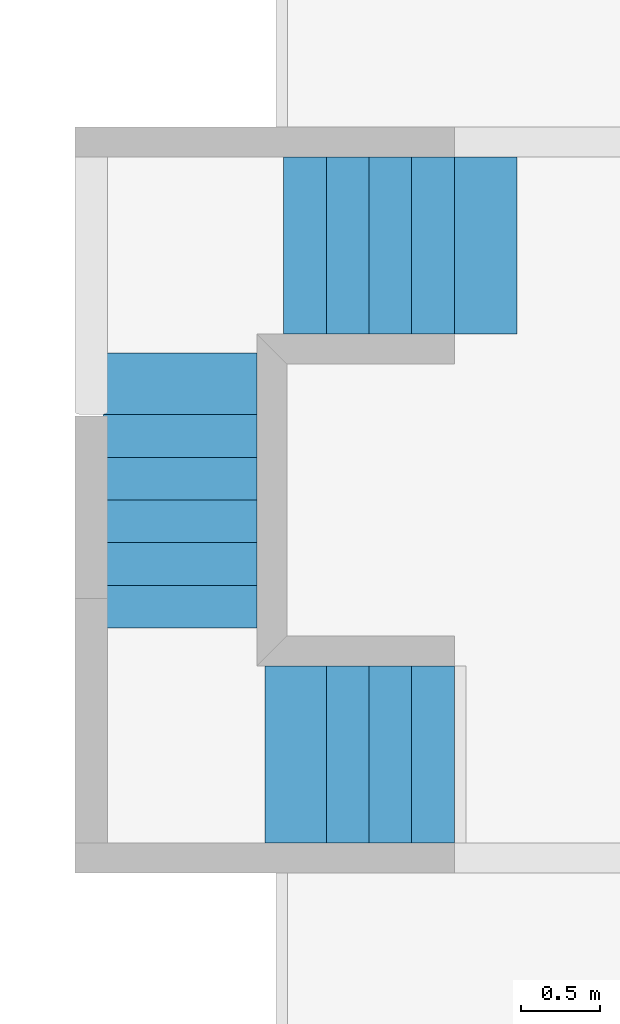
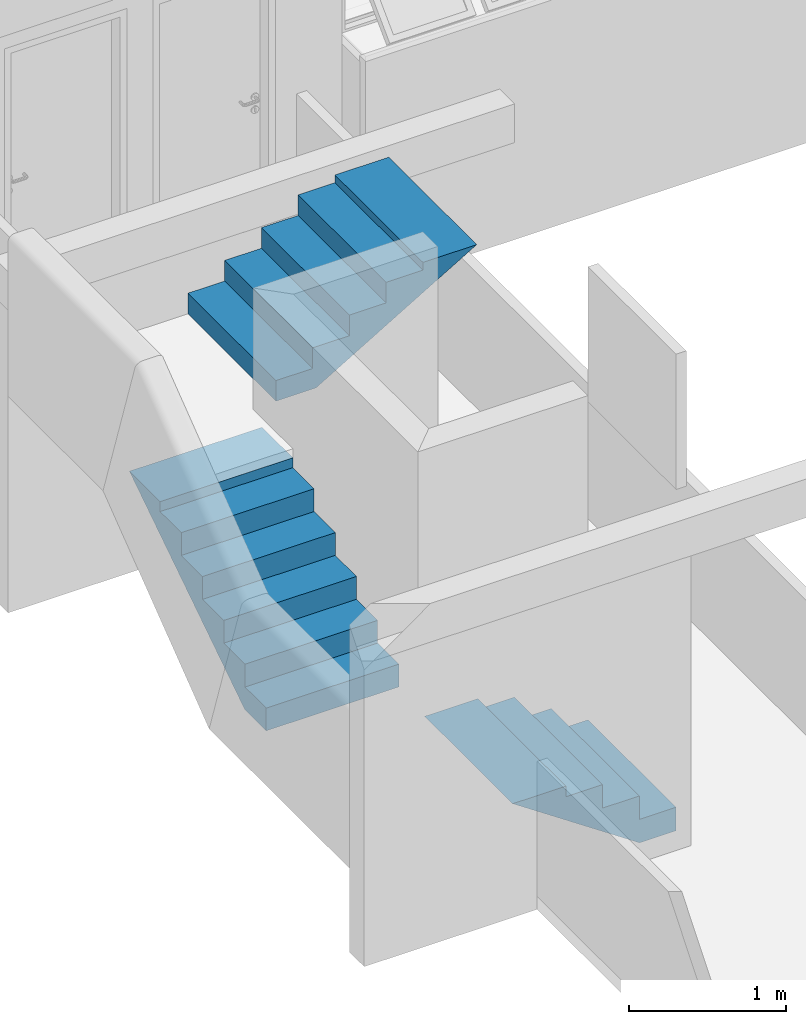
# One storey, part 38 of 38: 3 members, 3 elements without a shape of their own.
"""IFC2X3 building model written with IfcOpenShell, lengths in millimetres."""

from ifc_helpers import new_model, entity, si_unit, converted_unit, derived_unit, money_unit, direction, frame, origin_with_axes, place, context, subcontext, project, spatial, faceted_brep, material, type_object, element, aggregate, save


model = new_model("IFC2X3")

# Units and contexts
model_context = context("Model", 3, precision=0.01, world=origin_with_axes(), true_north=direction((0.0, 1.0)))
body_context = subcontext(model_context, "Body", "Model", "MODEL_VIEW")
ifc_project = project(units=[si_unit("LENGTHUNIT", "METRE", prefix="MILLI"), si_unit("AREAUNIT", "SQUARE_METRE"), si_unit("VOLUMEUNIT", "CUBIC_METRE"), converted_unit("PLANEANGLEUNIT", "DEGREE", entity("IfcPlaneAngleMeasure", 0.0174532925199), si_unit("PLANEANGLEUNIT", "RADIAN"), dimensions=[0, 0, 0, 0, 0, 0, 0]), money_unit("USD"), converted_unit("TIMEUNIT", "Year", entity("IfcTimeMeasure", 31556926.0), si_unit("TIMEUNIT", "SECOND"), dimensions=[0, 0, 1, 0, 0, 0, 0]), si_unit("MASSUNIT", "GRAM", prefix="KILO"), si_unit("THERMODYNAMICTEMPERATUREUNIT", "DEGREE_CELSIUS"), si_unit("LUMINOUSINTENSITYUNIT", "LUMEN"), si_unit("ENERGYUNIT", "JOULE", prefix="MEGA"), derived_unit("THERMALCONDUCTANCEUNIT", [(si_unit("POWERUNIT", "WATT"), 1), (si_unit("LENGTHUNIT", "METRE"), -1), (si_unit("THERMODYNAMICTEMPERATUREUNIT", "KELVIN"), -1)]), derived_unit("SPECIFICHEATCAPACITYUNIT", [(si_unit("ENERGYUNIT", "JOULE"), 1), (si_unit("MASSUNIT", "GRAM", prefix="KILO"), -1), (si_unit("THERMODYNAMICTEMPERATUREUNIT", "KELVIN"), -1)]), derived_unit("MASSDENSITYUNIT", [(si_unit("MASSUNIT", "GRAM", prefix="KILO"), 1), (si_unit("VOLUMEUNIT", "CUBIC_METRE"), -1)])], contexts=[model_context])

# Site, building, storey
site_placement = place(None, origin_with_axes())
site = spatial("IfcSite", under=ifc_project, at=site_placement, Name="Local", CompositionType="ELEMENT")
building_placement = place(site_placement, origin_with_axes())
building = spatial("IfcBuilding", under=site, at=building_placement, Name="Construção", CompositionType="ELEMENT")
storey_placement = place(building_placement, frame((0.0, 0.0, 2650.0), z_axis=(0.0, 0.0, 1.0), x_axis=(1.0, 0.0, 0.0)))
storey = spatial("IfcBuildingStorey", under=building, at=storey_placement, Name="Segundo Pavimento", CompositionType="ELEMENT", Elevation=2650.0)

# Stair, member
stair_1_placement = place(storey_placement, frame((6210.0, 14130.0, 1710.57075871), z_axis=(0.0, 0.0, 1.0), x_axis=(-1.0, 0.0, 0.0)))
stair_1 = element("IfcStair", 1, at=stair_1_placement, inside=storey, Name="CIRC2-ESCADA-002", ShapeType="NOTDEFINED")
ifc_material = material(Name="Concreto - Estrutural")
member_type = type_object("IfcMemberType", Name="IfcMember", PredefinedType="NOTDEFINED")
member_1_placement = place(stair_1_placement, origin_with_axes())
member_1 = element("IfcMember", 2, at=member_1_placement, type_object=member_type, material=ifc_material, Name="CIRC2-Lance - 005", context=body_context, shape_type="Brep", body=[
    faceted_brep([(-1170.0, 0.0, 518.78088097), (-1170.0, -1120.0, 518.78088097), (-1260.0, -1120.0, 572.098333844), (-1260.0, 0.0, 572.098333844), (-1080.0, 0.0, 465.463428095), (-1080.0, -1120.0, 465.463428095), (-1475.49625339, -1120.0, 699.761793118), (-1350.0, -1120.0, 625.415786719), (-990.0, -1120.0, 412.145975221), (-900.0, -1120.0, 358.828522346), (-810.0, -1120.0, 305.511069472), (-720.0, -1120.0, 252.193616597), (-630.0, -1120.0, 198.876163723), (-540.0, -1120.0, 145.558710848), (-450.0, -1120.0, 92.2412579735), (-360.0, -1120.0, 38.923805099), (-294.296515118, -1120.0, 0.0), (0.0, -1120.0, 0.0), (0.0, -1120.0, 159.952358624), (-270.0, -1120.0, 159.952358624), (-270.0, -1120.0, 319.904717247), (-540.0, -1120.0, 319.904717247), (-540.0, -1120.0, 479.857075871), (-810.0, -1120.0, 479.857075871), (-810.0, -1120.0, 639.809434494), (-1080.0, -1120.0, 639.809434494), (-1080.0, -1120.0, 699.761793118), (-1475.49625339, 0.0, 699.761793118), (-1350.0, 0.0, 625.415786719), (-1080.0, 0.0, 699.761793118), (-1080.0, 0.0, 639.809434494), (-810.0, 0.0, 639.809434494), (-810.0, 0.0, 479.857075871), (-540.0, 0.0, 479.857075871), (-540.0, 0.0, 319.904717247), (-270.0, 0.0, 319.904717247), (-270.0, 0.0, 159.952358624), (0.0, 0.0, 159.952358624), (0.0, 0.0, 0.0), (-294.296515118, 0.0, 0.0), (-360.0, 0.0, 38.923805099), (-450.0, 0.0, 92.2412579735), (-540.0, 0.0, 145.558710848), (-630.0, 0.0, 198.876163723), (-720.0, 0.0, 252.193616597), (-810.0, 0.0, 305.511069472), (-900.0, 0.0, 358.828522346), (-990.0, 0.0, 412.145975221)], [[[0, 1, 2, 3]], [[4, 5, 1, 0]], [[6, 7, 2, 1, 5, 8, 9, 10, 11, 12, 13, 14, 15, 16, 17, 18, 19, 20, 21, 22, 23, 24, 25, 26]], [[6, 27, 28, 3, 2, 7]], [[27, 29, 30, 31, 32, 33, 34, 35, 36, 37, 38, 39, 40, 41, 42, 43, 44, 45, 46, 47, 4, 0, 3, 28]], [[47, 8, 5, 4]], [[46, 9, 8, 47]], [[45, 10, 9, 46]], [[44, 11, 10, 45]], [[43, 12, 11, 44]], [[42, 13, 12, 43]], [[41, 14, 13, 42]], [[40, 15, 14, 41]], [[39, 16, 15, 40]], [[39, 38, 17, 16]], [[37, 18, 17, 38]], [[36, 19, 18, 37]], [[19, 36, 35, 20]], [[34, 21, 20, 35]], [[21, 34, 33, 22]], [[32, 23, 22, 33]], [[23, 32, 31, 24]], [[30, 25, 24, 31]], [[26, 25, 30, 29]], [[6, 26, 29, 27]]]),
])
aggregate(stair_1, [member_1])

stair_2_placement = place(storey_placement, frame((6040.0, 12000.0, 680.0), z_axis=(0.0, 0.0, 1.0), x_axis=(1.0, 0.0, 0.0)))
stair_2 = element("IfcStair", 3, at=stair_2_placement, inside=storey, Name="CIRC2-ESCADA-000", ShapeType="NOTDEFINED")
member_2_placement = place(stair_2_placement, origin_with_axes())
member_2 = element("IfcMember", 4, at=member_2_placement, type_object=member_type, material=ifc_material, Name="CIRC2-Lance - 007", context=body_context, shape_type="Brep", body=[
    faceted_brep([(-975.0, 1620.0, 883.808965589), (-975.0, 1350.0, 883.808965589), (0.0, 1350.0, 883.808965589), (0.0, 1620.0, 883.808965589), (-975.0, 1620.0, 960.570758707), (-975.0, 2011.10758728, 960.570758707), (-975.0, 1620.0, 704.523060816), (-975.0, 1530.0, 645.60246311), (-975.0, 1440.0, 586.681865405), (-975.0, 1350.0, 527.761267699), (-975.0, 1260.0, 468.840669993), (-975.0, 1170.0, 409.920072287), (-975.0, 1080.0, 350.999474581), (-975.0, 990.0, 292.078876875), (-975.0, 900.0, 233.158279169), (-975.0, 810.0, 174.237681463), (-975.0, 720.0, 115.317083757), (-975.0, 630.0, 56.3964860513), (-975.0, 543.855528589, 0.0), (-975.0, 270.0, 0.0), (-975.0, 270.0, 176.761793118), (-975.0, 540.0, 176.761793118), (-975.0, 540.0, 353.523586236), (-975.0, 810.0, 353.523586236), (-975.0, 810.0, 530.285379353), (-975.0, 1080.0, 530.285379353), (-975.0, 1080.0, 707.047172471), (-975.0, 1350.0, 707.047172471), (0.0, 1350.0, 707.047172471), (0.0, 1620.0, 704.523060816), (0.0, 2011.10758728, 960.570758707), (0.0, 1620.0, 960.570758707), (0.0, 1080.0, 707.047172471), (0.0, 1080.0, 530.285379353), (0.0, 810.0, 530.285379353), (0.0, 810.0, 353.523586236), (0.0, 540.0, 353.523586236), (0.0, 540.0, 176.761793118), (0.0, 270.0, 176.761793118), (0.0, 270.0, 0.0), (0.0, 543.855528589, 0.0), (0.0, 630.0, 56.3964860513), (0.0, 720.0, 115.317083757), (0.0, 810.0, 174.237681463), (0.0, 900.0, 233.158279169), (0.0, 990.0, 292.078876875), (0.0, 1080.0, 350.999474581), (0.0, 1170.0, 409.920072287), (0.0, 1260.0, 468.840669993), (0.0, 1350.0, 527.761267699), (0.0, 1440.0, 586.681865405), (0.0, 1530.0, 645.60246311)], [[[0, 1, 2, 3]], [[0, 4, 5, 6, 7, 8, 9, 10, 11, 12, 13, 14, 15, 16, 17, 18, 19, 20, 21, 22, 23, 24, 25, 26, 27, 1]], [[1, 27, 28, 2]], [[29, 30, 31, 3, 2, 28, 32, 33, 34, 35, 36, 37, 38, 39, 40, 41, 42, 43, 44, 45, 46, 47, 48, 49, 50, 51]], [[3, 31, 4, 0]], [[4, 31, 30, 5]], [[6, 5, 30, 29, 51, 7]], [[8, 7, 51, 50]], [[9, 8, 50, 49]], [[10, 9, 49, 48]], [[11, 10, 48, 47]], [[12, 11, 47, 46]], [[13, 12, 46, 45]], [[14, 13, 45, 44]], [[15, 14, 44, 43]], [[16, 15, 43, 42]], [[17, 16, 42, 41]], [[18, 17, 41, 40]], [[19, 18, 40, 39]], [[20, 19, 39, 38]], [[38, 37, 21, 20]], [[22, 21, 37, 36]], [[36, 35, 23, 22]], [[24, 23, 35, 34]], [[34, 33, 25, 24]], [[26, 25, 33, 32]], [[32, 28, 27, 26]]]),
])
aggregate(stair_2, [member_2])

stair_3_placement = place(storey_placement, frame((7290.0, 10910.0, -50.0), z_axis=(0.0, 0.0, 1.0), x_axis=(1.0, 0.0, 0.0)))
stair_3 = element("IfcStair", 5, at=stair_3_placement, inside=storey, Name="CIRC2-ESCADA-001", ShapeType="NOTDEFINED")
member_3_placement = place(stair_3_placement, origin_with_axes())
member_3 = element("IfcMember", 6, at=member_3_placement, type_object=member_type, material=ifc_material, Name="CIRC2-Lance - 005", context=body_context, shape_type="Brep", body=[
    faceted_brep([(-810.0, 1120.0, 547.5), (-810.0, 0.0, 547.5), (-540.0, 0.0, 547.5), (-540.0, 1120.0, 547.5), (-810.0, 1120.0, 630.0), (-810.0, 0.0, 630.0), (-810.0, 0.0, 366.448331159), (-720.0, 0.0, 305.614997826), (-630.0, 0.0, 244.781664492), (-540.0, 0.0, 183.948331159), (-450.0, 0.0, 123.114997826), (-360.0, 0.0, 62.2816644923), (-270.0, 0.0, 1.44833115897), (-267.857263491, 0.0, 0.0), (0.0, 0.0, 0.0), (0.0, 0.0, 182.5), (-270.0, 0.0, 182.5), (-270.0, 0.0, 365.0), (-540.0, 0.0, 365.0), (-1199.91205801, 0.0, 630.0), (-540.0, 1120.0, 365.0), (-270.0, 1120.0, 365.0), (-270.0, 1120.0, 182.5), (0.0, 1120.0, 182.5), (0.0, 1120.0, 0.0), (-267.857263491, 1120.0, 0.0), (-270.0, 1120.0, 1.44833115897), (-360.0, 1120.0, 62.2816644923), (-450.0, 1120.0, 123.114997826), (-540.0, 1120.0, 183.948331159), (-630.0, 1120.0, 244.781664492), (-720.0, 1120.0, 305.614997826), (-810.0, 1120.0, 366.448331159), (-1199.91205801, 1120.0, 630.0)], [[[0, 1, 2, 3]], [[1, 0, 4, 5]], [[6, 7, 8, 9, 10, 11, 12, 13, 14, 15, 16, 17, 18, 2, 1, 5, 19]], [[3, 2, 18, 20]], [[0, 3, 20, 21, 22, 23, 24, 25, 26, 27, 28, 29, 30, 31, 32, 33, 4]], [[4, 33, 19, 5]], [[32, 31, 7, 6, 19, 33]], [[7, 31, 30, 8]], [[8, 30, 29, 9]], [[9, 29, 28, 10]], [[10, 28, 27, 11]], [[11, 27, 26, 12]], [[12, 26, 25, 13]], [[25, 24, 14, 13]], [[14, 24, 23, 15]], [[15, 23, 22, 16]], [[21, 17, 16, 22]], [[17, 21, 20, 18]]]),
])
aggregate(stair_3, [member_3])

save(model, "model.ifc")
